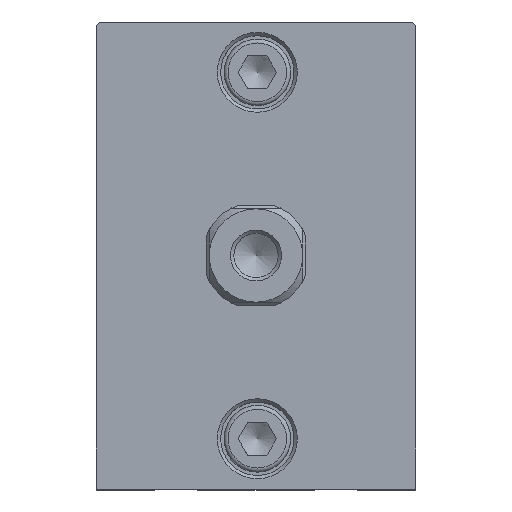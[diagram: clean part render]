
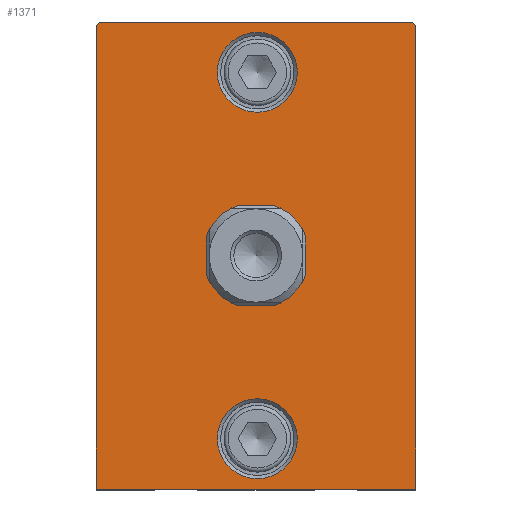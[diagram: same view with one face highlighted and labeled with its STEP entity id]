
A CAD part, top view. The second image highlights one B-rep face of the part: STEP entity #1371.
In plain terms, the highlighted planar face has unit normal (0, 0, 1).
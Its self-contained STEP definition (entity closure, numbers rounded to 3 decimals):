
#341=CARTESIAN_POINT('',(-11.483,35.05,16.0));
#342=VERTEX_POINT('',#341);
#349=CARTESIAN_POINT('',(35.517,35.05,16.0));
#350=VERTEX_POINT('',#349);
#351=CARTESIAN_POINT('',(-11.483,35.05,16.0));
#352=DIRECTION('',(1.0,0.0,0.0));
#353=VECTOR('',#352,47.);
#354=LINE('',#351,#353);
#355=EDGE_CURVE('',#342,#350,#354,.T.);
#388=CARTESIAN_POINT('',(-11.983,34.55,16.0));
#389=VERTEX_POINT('',#388);
#396=CARTESIAN_POINT('',(-11.983,34.55,16.0));
#397=DIRECTION('',(0.707,0.707,0.0));
#398=VECTOR('',#397,0.707);
#399=LINE('',#396,#398);
#400=EDGE_CURVE('',#389,#342,#399,.T.);
#809=CARTESIAN_POINT('',(36.017,-35.05,16.0));
#810=VERTEX_POINT('',#809);
#817=CARTESIAN_POINT('',(-11.983,-35.05,16.0));
#818=VERTEX_POINT('',#817);
#819=CARTESIAN_POINT('',(36.017,-35.05,16.0));
#820=DIRECTION('',(-1.0,0.0,0.0));
#821=VECTOR('',#820,48.);
#822=LINE('',#819,#821);
#823=EDGE_CURVE('',#810,#818,#822,.T.);
#847=CARTESIAN_POINT('',(-11.983,-35.05,16.0));
#848=DIRECTION('',(0.0,1.0,0.0));
#849=VECTOR('',#848,69.6);
#850=LINE('',#847,#849);
#851=EDGE_CURVE('',#818,#389,#850,.T.);
#1250=CARTESIAN_POINT('',(18.217,27.5,16.0));
#1251=VERTEX_POINT('',#1250);
#1252=CARTESIAN_POINT('',(12.217,27.5,16.0));
#1253=DIRECTION('',(0.0,0.0,1.0));
#1254=DIRECTION('',(-1.0,0.0,0.0));
#1255=AXIS2_PLACEMENT_3D('',#1252,#1253,#1254);
#1256=CIRCLE('',#1255,6.);
#1257=EDGE_CURVE('',#1251,#1251,#1256,.T.);
#1262=CARTESIAN_POINT('',(12.017,0.0,16.0));
#1263=DIRECTION('',(0.0,0.0,1.0));
#1264=DIRECTION('',(1.0,0.0,0.0));
#1265=AXIS2_PLACEMENT_3D('',#1262,#1263,#1264);
#1266=PLANE('',#1265);
#1267=ORIENTED_EDGE('',*,*,#400,.F.);
#1268=ORIENTED_EDGE('',*,*,#851,.F.);
#1269=ORIENTED_EDGE('',*,*,#823,.F.);
#1270=CARTESIAN_POINT('',(36.017,34.55,16.0));
#1271=VERTEX_POINT('',#1270);
#1272=CARTESIAN_POINT('',(36.017,34.55,16.0));
#1273=DIRECTION('',(0.0,-1.0,0.0));
#1274=VECTOR('',#1273,69.6);
#1275=LINE('',#1272,#1274);
#1276=EDGE_CURVE('',#1271,#810,#1275,.T.);
#1277=ORIENTED_EDGE('',*,*,#1276,.F.);
#1278=CARTESIAN_POINT('',(35.517,35.05,16.0));
#1279=DIRECTION('',(0.707,-0.707,0.0));
#1280=VECTOR('',#1279,0.707);
#1281=LINE('',#1278,#1280);
#1282=EDGE_CURVE('',#350,#1271,#1281,.T.);
#1283=ORIENTED_EDGE('',*,*,#1282,.F.);
#1284=ORIENTED_EDGE('',*,*,#355,.F.);
#1285=EDGE_LOOP('',(#1267,#1268,#1269,#1277,#1283,#1284));
#1286=FACE_OUTER_BOUND('',#1285,.T.);
#1287=CARTESIAN_POINT('',(18.217,-27.5,16.0));
#1288=VERTEX_POINT('',#1287);
#1289=CARTESIAN_POINT('',(12.217,-27.5,16.0));
#1290=DIRECTION('',(0.0,0.0,1.0));
#1291=DIRECTION('',(-1.0,0.0,0.0));
#1292=AXIS2_PLACEMENT_3D('',#1289,#1290,#1291);
#1293=CIRCLE('',#1292,6.);
#1294=EDGE_CURVE('',#1288,#1288,#1293,.T.);
#1295=ORIENTED_EDGE('',*,*,#1294,.F.);
#1296=EDGE_LOOP('',(#1295));
#1297=FACE_BOUND('',#1296,.T.);
#1298=CARTESIAN_POINT('',(14.801,7.5,16.0));
#1299=VERTEX_POINT('',#1298);
#1300=CARTESIAN_POINT('',(19.517,2.784,16.0));
#1301=VERTEX_POINT('',#1300);
#1302=CARTESIAN_POINT('',(12.017,0.0,16.0));
#1303=DIRECTION('',(0.0,0.0,-1.0));
#1304=DIRECTION('',(0.0,1.0,0.0));
#1305=AXIS2_PLACEMENT_3D('',#1302,#1303,#1304);
#1306=CIRCLE('',#1305,8.);
#1307=EDGE_CURVE('',#1299,#1301,#1306,.T.);
#1308=ORIENTED_EDGE('',*,*,#1307,.T.);
#1309=CARTESIAN_POINT('',(19.517,-2.784,16.0));
#1310=VERTEX_POINT('',#1309);
#1311=CARTESIAN_POINT('',(19.517,-2.784,16.0));
#1312=DIRECTION('',(0.0,1.0,0.0));
#1313=VECTOR('',#1312,5.568);
#1314=LINE('',#1311,#1313);
#1315=EDGE_CURVE('',#1310,#1301,#1314,.T.);
#1316=ORIENTED_EDGE('',*,*,#1315,.F.);
#1317=CARTESIAN_POINT('',(14.801,-7.5,16.0));
#1318=VERTEX_POINT('',#1317);
#1319=CARTESIAN_POINT('',(12.017,0.0,16.0));
#1320=DIRECTION('',(0.0,0.0,-1.0));
#1321=DIRECTION('',(0.0,1.0,0.0));
#1322=AXIS2_PLACEMENT_3D('',#1319,#1320,#1321);
#1323=CIRCLE('',#1322,8.);
#1324=EDGE_CURVE('',#1310,#1318,#1323,.T.);
#1325=ORIENTED_EDGE('',*,*,#1324,.T.);
#1326=CARTESIAN_POINT('',(9.233,-7.5,16.0));
#1327=VERTEX_POINT('',#1326);
#1328=CARTESIAN_POINT('',(9.233,-7.5,16.0));
#1329=DIRECTION('',(1.0,0.0,0.0));
#1330=VECTOR('',#1329,5.568);
#1331=LINE('',#1328,#1330);
#1332=EDGE_CURVE('',#1327,#1318,#1331,.T.);
#1333=ORIENTED_EDGE('',*,*,#1332,.F.);
#1334=CARTESIAN_POINT('',(4.517,-2.784,16.0));
#1335=VERTEX_POINT('',#1334);
#1336=CARTESIAN_POINT('',(12.017,0.0,16.0));
#1337=DIRECTION('',(0.0,0.0,-1.0));
#1338=DIRECTION('',(0.0,1.0,0.0));
#1339=AXIS2_PLACEMENT_3D('',#1336,#1337,#1338);
#1340=CIRCLE('',#1339,8.);
#1341=EDGE_CURVE('',#1327,#1335,#1340,.T.);
#1342=ORIENTED_EDGE('',*,*,#1341,.T.);
#1343=CARTESIAN_POINT('',(4.517,2.784,16.0));
#1344=VERTEX_POINT('',#1343);
#1345=CARTESIAN_POINT('',(4.517,2.784,16.0));
#1346=DIRECTION('',(0.0,-1.0,0.0));
#1347=VECTOR('',#1346,5.568);
#1348=LINE('',#1345,#1347);
#1349=EDGE_CURVE('',#1344,#1335,#1348,.T.);
#1350=ORIENTED_EDGE('',*,*,#1349,.F.);
#1351=CARTESIAN_POINT('',(9.233,7.5,16.0));
#1352=VERTEX_POINT('',#1351);
#1353=CARTESIAN_POINT('',(12.017,0.0,16.0));
#1354=DIRECTION('',(0.0,0.0,-1.0));
#1355=DIRECTION('',(0.0,1.0,0.0));
#1356=AXIS2_PLACEMENT_3D('',#1353,#1354,#1355);
#1357=CIRCLE('',#1356,8.);
#1358=EDGE_CURVE('',#1344,#1352,#1357,.T.);
#1359=ORIENTED_EDGE('',*,*,#1358,.T.);
#1360=CARTESIAN_POINT('',(14.801,7.5,16.0));
#1361=DIRECTION('',(-1.0,0.0,0.0));
#1362=VECTOR('',#1361,5.568);
#1363=LINE('',#1360,#1362);
#1364=EDGE_CURVE('',#1299,#1352,#1363,.T.);
#1365=ORIENTED_EDGE('',*,*,#1364,.F.);
#1366=EDGE_LOOP('',(#1308,#1316,#1325,#1333,#1342,#1350,#1359,#1365));
#1367=FACE_BOUND('',#1366,.T.);
#1368=ORIENTED_EDGE('',*,*,#1257,.F.);
#1369=EDGE_LOOP('',(#1368));
#1370=FACE_BOUND('',#1369,.T.);
#1371=ADVANCED_FACE('',(#1286,#1297,#1367,#1370),#1266,.T.);
